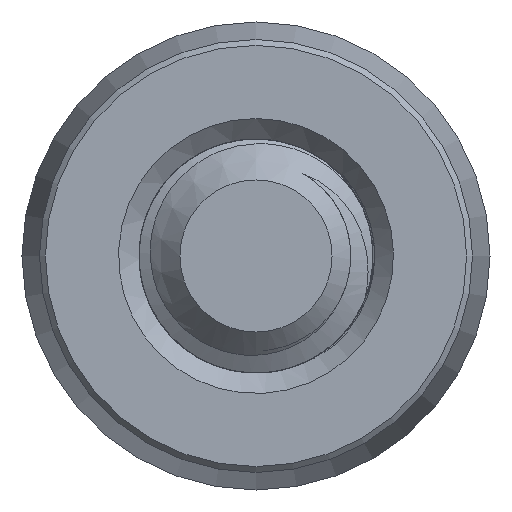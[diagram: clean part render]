
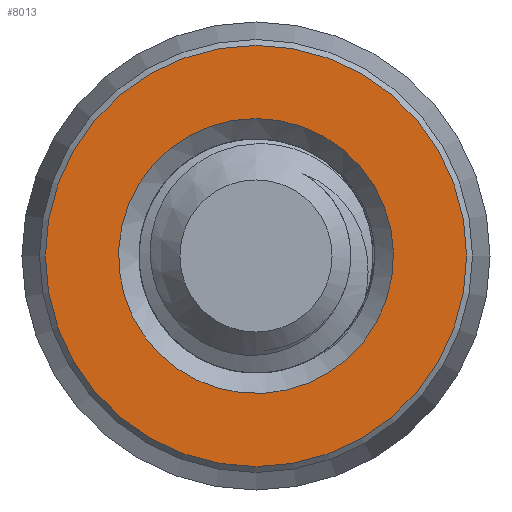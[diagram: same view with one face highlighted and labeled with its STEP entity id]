
A CAD part, front view. The second image highlights one B-rep face of the part: STEP entity #8013.
In plain terms, the highlighted planar face has unit normal (0, -1, 0).
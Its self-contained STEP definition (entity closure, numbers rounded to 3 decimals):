
#435 = CIRCLE ( 'NONE', #7692, 3.6 ) ;
#573 = FACE_BOUND ( 'NONE', #8297, .T. ) ;
#847 = VERTEX_POINT ( 'NONE', #5399 ) ;
#874 = CARTESIAN_POINT ( 'NONE',  ( 0., 0., 0. ) ) ;
#1254 = DIRECTION ( 'NONE',  ( 0., 0., 1. ) ) ;
#2743 = CARTESIAN_POINT ( 'NONE',  ( -3.7, 0., 0. ) ) ;
#3540 = VERTEX_POINT ( 'NONE', #8787 ) ;
#3608 = DIRECTION ( 'NONE',  ( 0., -1., 0. ) ) ;
#3620 = AXIS2_PLACEMENT_3D ( 'NONE', #2743, #8184, #6893 ) ;
#3668 = AXIS2_PLACEMENT_3D ( 'NONE', #5348, #5973, #1254 ) ;
#3979 = EDGE_CURVE ( 'NONE', #847, #847, #435, .T. ) ;
#5348 = CARTESIAN_POINT ( 'NONE',  ( 0., 0., 0. ) ) ;
#5399 = CARTESIAN_POINT ( 'NONE',  ( 0., 0., 3.6 ) ) ;
#5973 = DIRECTION ( 'NONE',  ( 0., 1., 0. ) ) ;
#6104 = PLANE ( 'NONE',  #3620 ) ;
#6121 = EDGE_LOOP ( 'NONE', ( #8429 ) ) ;
#6751 = EDGE_CURVE ( 'NONE', #3540, #3540, #7135, .T. ) ;
#6893 = DIRECTION ( 'NONE',  ( 0., 0., 1. ) ) ;
#6985 = ORIENTED_EDGE ( 'NONE', *, *, #6751, .T. ) ;
#7135 = CIRCLE ( 'NONE', #3668, 2.35 ) ;
#7499 = FACE_OUTER_BOUND ( 'NONE', #6121, .T. ) ;
#7656 = DIRECTION ( 'NONE',  ( 0., 0., 1. ) ) ;
#7692 = AXIS2_PLACEMENT_3D ( 'NONE', #874, #3608, #7656 ) ;
#8013 = ADVANCED_FACE ( 'NONE', ( #573, #7499 ), #6104, .F. ) ;
#8184 = DIRECTION ( 'NONE',  ( 0., 1., 0. ) ) ;
#8297 = EDGE_LOOP ( 'NONE', ( #6985 ) ) ;
#8429 = ORIENTED_EDGE ( 'NONE', *, *, #3979, .T. ) ;
#8787 = CARTESIAN_POINT ( 'NONE',  ( 0., 0., 2.35 ) ) ;
